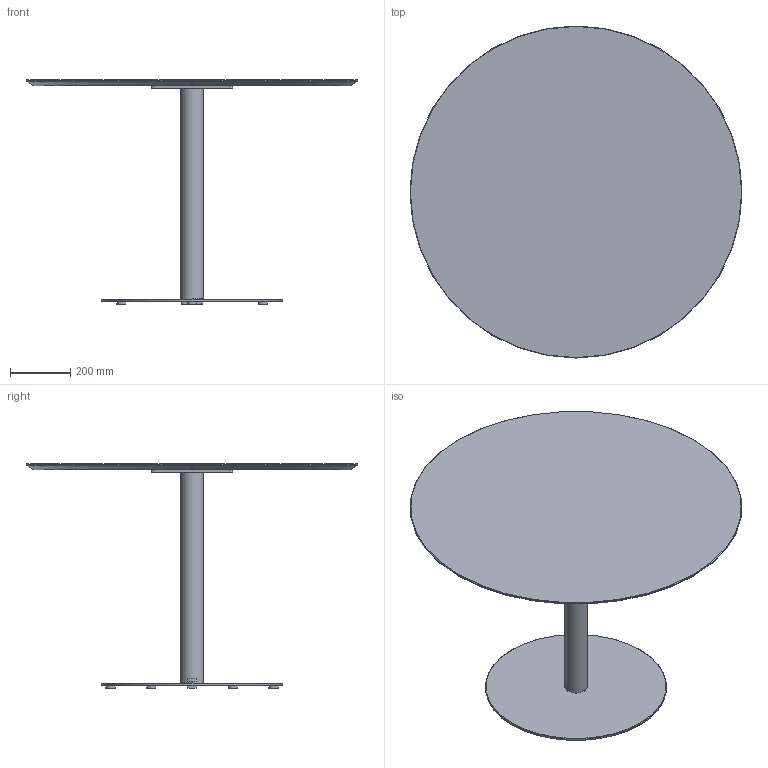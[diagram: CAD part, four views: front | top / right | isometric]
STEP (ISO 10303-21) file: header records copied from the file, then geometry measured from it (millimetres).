
FILE_DESCRIPTION( ('This file contains a STEP AP42 implementation' ,'as created by ZW3D STEP Interface translator.') ,'2;1' );
FILE_NAME( 'Henri - B_Rond - F1 - M5 - 1100 x 1100 x 750.stp' ,'24 912.152013', (''), ('ZWCAD Software Co.'), 'Version 1.0', 'ZW3D to STEP translator', '' );
FILE_SCHEMA(('AUTOMOTIVE_DESIGN { 1 0 10303 214 1 1 1 1 }'));
Length unit declared in the file: millimetre
Products named in the file (14): 0; PIED BISTROT PARAMETRIQUE_; COLONNE ACIER Ø76 V.02_; TUB-D076-02_; PLA-R76B-01_; CROIX ACIER 370 V.02_; CRX-X370-02_; SOCLE ACIER C Ø600 V.02_; SCL-D600-02_; PLA-R30A-01_; PLA-R30A-01; WUERTH 0276063020 Euro-screw 6.3x2 Verzinkt_; PLATEAU BISTROT PARAMETRIQUE_; insert_m6_13_
Assembly tree (24 placements, depth 3):
  0
  PIED BISTROT PARAMETRIQUE_
    COLONNE ACIER Ø76 V.02_
      TUB-D076-02_
      PLA-R76B-01_  x2
    CROIX ACIER 370 V.02_
      CRX-X370-02_
    SOCLE ACIER C Ø600 V.02_
      SCL-D600-02_
      PLA-R30A-01_
      PLA-R30A-01  x5
    WUERTH 0276063020 Euro-screw 6.3x2 Verzinkt_
    PLATEAU BISTROT PARAMETRIQUE_
      insert_m6_13_  x8
Bounding box: 1100 x 1100 x 744 mm (x, y, z)
Volume: 21559987.9 mm3; surface area: 3034491.9 mm2
Topology: 21 solids, 21 shells, 524 faces, 1273 edges, 802 vertices
Faces by surface type: plane 254, bspline 125, cylinder 99, cone 45, torus 1
Full cylindrical faces by diameter (mm): 4.88 x1, 6 x8, 6.3 x1, 8 x47, 12 x2, 14 x2, 30 x6, 72 x1, 76 x1, 600 x1
Entity records: 11746 total; most frequent: CARTESIAN_POINT 3330, ORIENTED_EDGE 1526, DIRECTION 1416, EDGE_CURVE 763, VERTEX_POINT 490, VECTOR 476, LINE 476, AXIS2_PLACEMENT_3D 470
